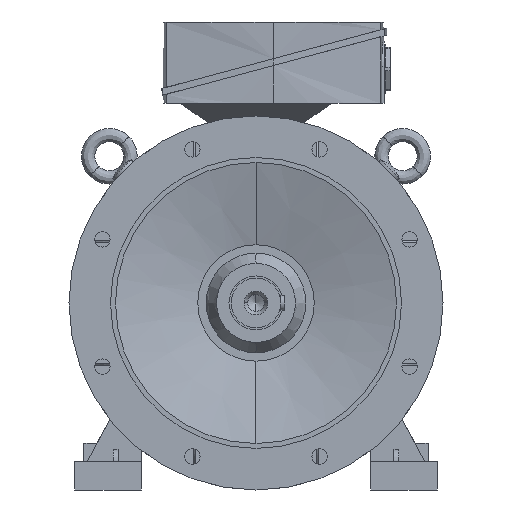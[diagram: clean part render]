
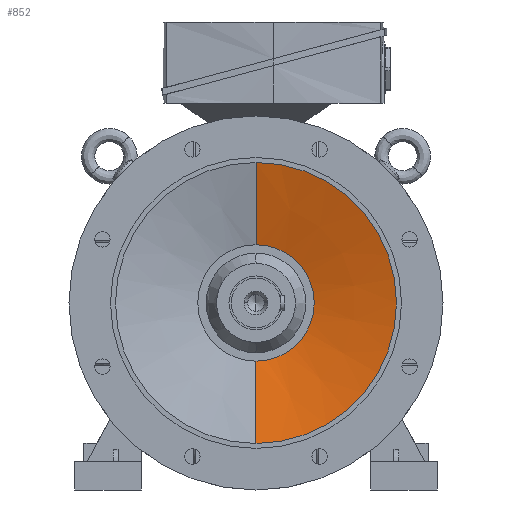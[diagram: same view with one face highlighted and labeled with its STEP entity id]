
A CAD part, left-side view. The second image highlights one B-rep face of the part: STEP entity #852.
In plain terms, the highlighted conical face has half-angle 74.208 degrees and reference radius 169 mm.
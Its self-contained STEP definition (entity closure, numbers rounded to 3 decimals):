
#782 = CARTESIAN_POINT ( 'NONE',  ( -57., 0., -70. ) ) ;
#852 = ADVANCED_FACE ( 'NONE', ( #12706 ), #29148, .F. ) ;
#1159 = CARTESIAN_POINT ( 'NONE',  ( -85., 0., -169. ) ) ;
#2971 = CIRCLE ( 'NONE', #22098, 70. ) ;
#4635 = CARTESIAN_POINT ( 'NONE',  ( -85., 0., 0. ) ) ;
#4827 = VERTEX_POINT ( 'NONE', #1159 ) ;
#5391 = CARTESIAN_POINT ( 'NONE',  ( -85., 0., 169. ) ) ;
#6018 = CARTESIAN_POINT ( 'NONE',  ( -57., 0., 70. ) ) ;
#6672 = EDGE_LOOP ( 'NONE', ( #37036, #19071, #18017, #34800 ) ) ;
#7882 = EDGE_CURVE ( 'NONE', #32975, #4827, #12690, .T. ) ;
#7967 = DIRECTION ( 'NONE',  ( 0., 0., 1. ) ) ;
#8003 = CARTESIAN_POINT ( 'NONE',  ( -85., 0., 169. ) ) ;
#8153 = VERTEX_POINT ( 'NONE', #8003 ) ;
#8212 = AXIS2_PLACEMENT_3D ( 'NONE', #34429, #8354, #41316 ) ;
#8354 = DIRECTION ( 'NONE',  ( -1., 0., 0. ) ) ;
#8722 = DIRECTION ( 'NONE',  ( -0.272, 0., 0.962 ) ) ;
#10897 = EDGE_CURVE ( 'NONE', #26840, #8153, #29974, .T. ) ;
#12484 = VECTOR ( 'NONE', #8722, 1000. ) ;
#12690 = LINE ( 'NONE', #15620, #20380 ) ;
#12706 = FACE_OUTER_BOUND ( 'NONE', #6672, .T. ) ;
#12710 = DIRECTION ( 'NONE',  ( -1., 0., 0. ) ) ;
#15620 = CARTESIAN_POINT ( 'NONE',  ( -85., 0., -169. ) ) ;
#18017 = ORIENTED_EDGE ( 'NONE', *, *, #29387, .T. ) ;
#18935 = DIRECTION ( 'NONE',  ( -0.272, 0., -0.962 ) ) ;
#19071 = ORIENTED_EDGE ( 'NONE', *, *, #7882, .T. ) ;
#20380 = VECTOR ( 'NONE', #18935, 1000. ) ;
#22098 = AXIS2_PLACEMENT_3D ( 'NONE', #32429, #12710, #35715 ) ;
#25079 = AXIS2_PLACEMENT_3D ( 'NONE', #4635, #27670, #7967 ) ;
#26840 = VERTEX_POINT ( 'NONE', #6018 ) ;
#27670 = DIRECTION ( 'NONE',  ( -1., 0., 0. ) ) ;
#29148 = CONICAL_SURFACE ( 'NONE', #8212, 169., 1.295 ) ;
#29387 = EDGE_CURVE ( 'NONE', #4827, #8153, #32745, .T. ) ;
#29974 = LINE ( 'NONE', #5391, #12484 ) ;
#32429 = CARTESIAN_POINT ( 'NONE',  ( -57., 0., 0. ) ) ;
#32745 = CIRCLE ( 'NONE', #25079, 169. ) ;
#32975 = VERTEX_POINT ( 'NONE', #782 ) ;
#34429 = CARTESIAN_POINT ( 'NONE',  ( -85., 0., 0. ) ) ;
#34800 = ORIENTED_EDGE ( 'NONE', *, *, #10897, .F. ) ;
#35715 = DIRECTION ( 'NONE',  ( 0., 0., 1. ) ) ;
#37036 = ORIENTED_EDGE ( 'NONE', *, *, #42338, .F. ) ;
#41316 = DIRECTION ( 'NONE',  ( 0., 0., 1. ) ) ;
#42338 = EDGE_CURVE ( 'NONE', #32975, #26840, #2971, .T. ) ;
